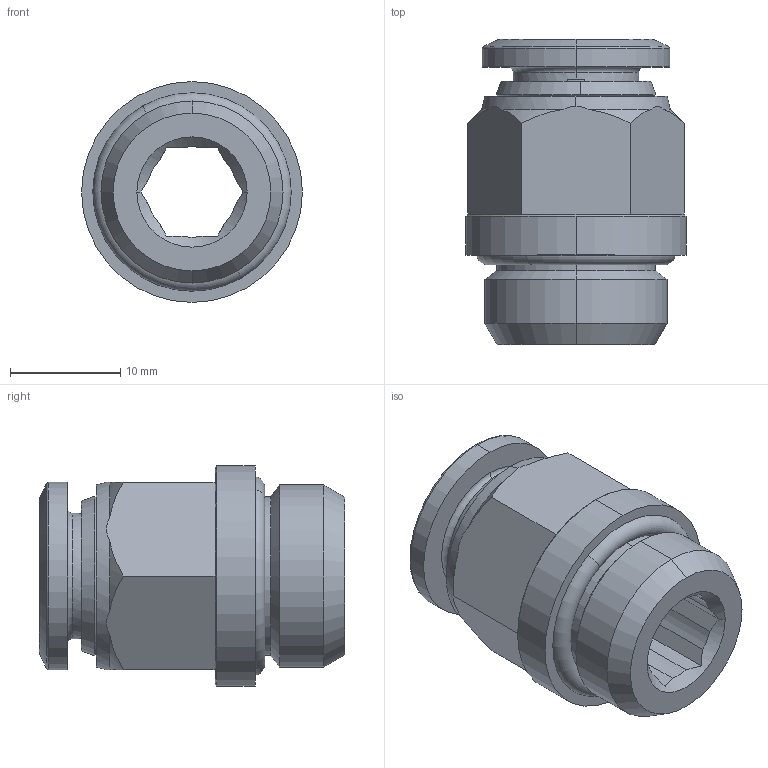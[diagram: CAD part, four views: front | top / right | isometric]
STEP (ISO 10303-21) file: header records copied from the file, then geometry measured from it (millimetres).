
FILE_DESCRIPTION (( 'STEP AP214' ), '1' );
FILE_NAME ('40020V0009A.STEP', '2024-10-21T10:14:51', ( '' ), ( '' ), 'SwSTEP 2.0', 'SolidWorks 2020', '' );
FILE_SCHEMA (( 'AUTOMOTIVE_DESIGN' ));
Length unit declared in the file: millimetre
Products named in the file (1): 40020V0009A
Bounding box: 20 x 27.65 x 20 mm (x, y, z)
Volume: 4246 mm3; surface area: 3055.1 mm2
Topology: 1 solids, 1 shells, 84 faces, 209 edges, 132 vertices
Faces by surface type: plane 31, cone 26, cylinder 21, torus 6
Entity records: 3572 total; most frequent: CARTESIAN_POINT 654, DIRECTION 421, ORIENTED_EDGE 418, EDGE_CURVE 209, AXIS2_PLACEMENT_3D 171, VERTEX_POINT 132, EDGE_LOOP 91, CIRCLE 86
